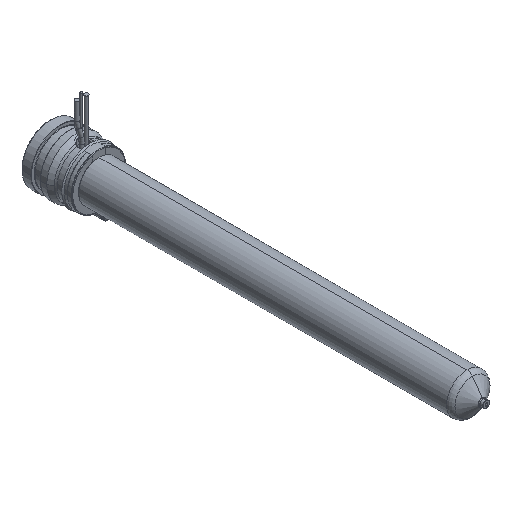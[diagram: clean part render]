
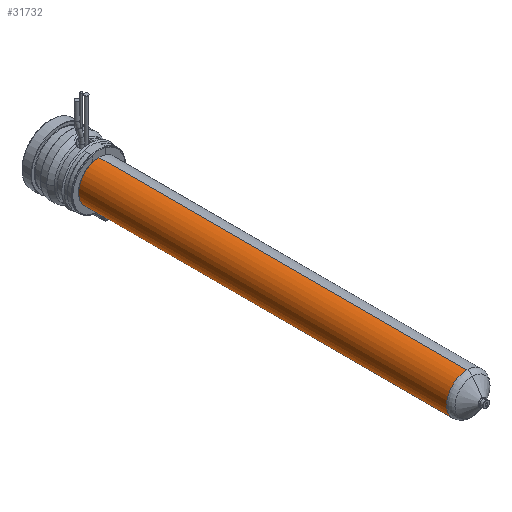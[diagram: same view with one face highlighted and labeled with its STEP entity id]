
A CAD part, isometric view. The second image highlights one B-rep face of the part: STEP entity #31732.
In plain terms, the highlighted cylindrical face has radius 9 mm (diameter 18 mm), a partial arc.
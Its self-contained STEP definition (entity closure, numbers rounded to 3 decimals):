
#31296=CARTESIAN_POINT('',(0.,-185.471,0.));
#31297=DIRECTION('',(0.,-1.,0.));
#31298=DIRECTION('',(0.,0.,1.));
#31299=AXIS2_PLACEMENT_3D('',#31296,#31297,#31298);
#31328=DIRECTION('',(0.,-1.,0.));
#31329=VECTOR('',#31328,163.471);
#31330=CARTESIAN_POINT('',(0.,-22.,9.));
#31331=LINE('',#31330,#31329);
#31343=DIRECTION('',(0.,-1.,0.));
#31344=VECTOR('',#31343,163.471);
#31345=CARTESIAN_POINT('',(0.,-22.,-9.));
#31346=LINE('',#31345,#31344);
#31350=CARTESIAN_POINT('',(0.,-22.,0.));
#31351=DIRECTION('',(0.,-1.,0.));
#31352=DIRECTION('',(0.,0.,1.));
#31353=AXIS2_PLACEMENT_3D('',#31350,#31351,#31352);
#31548=CARTESIAN_POINT('',(0.,-22.,9.));
#31549=CARTESIAN_POINT('',(0.,-185.471,9.));
#31550=VERTEX_POINT('',#31548);
#31551=VERTEX_POINT('',#31549);
#31560=CARTESIAN_POINT('',(0.,-22.,-9.));
#31561=CARTESIAN_POINT('',(0.,-185.471,-9.));
#31562=VERTEX_POINT('',#31560);
#31563=VERTEX_POINT('',#31561);
#31720=CARTESIAN_POINT('',(0.,-9.2,0.));
#31721=DIRECTION('',(0.,-1.,0.));
#31722=DIRECTION('',(0.,0.,1.));
#31723=AXIS2_PLACEMENT_3D('',#31720,#31721,#31722);
#31724=CYLINDRICAL_SURFACE('',#31723,9.);
#31725=ORIENTED_EDGE('',*,*,#31710,.T.);
#31726=ORIENTED_EDGE('',*,*,#31687,.T.);
#31727=ORIENTED_EDGE('',*,*,#31714,.F.);
#31729=ORIENTED_EDGE('',*,*,#31728,.F.);
#31730=EDGE_LOOP('',(#31725,#31726,#31727,#31729));
#31731=FACE_OUTER_BOUND('',#31730,.F.);
#31732=ADVANCED_FACE('',(#31731),#31724,.T.);
#31300=CIRCLE('',#31299,9.);
#31354=CIRCLE('',#31353,9.);
#31687=EDGE_CURVE('',#31551,#31563,#31300,.T.);
#31710=EDGE_CURVE('',#31550,#31551,#31331,.T.);
#31714=EDGE_CURVE('',#31562,#31563,#31346,.T.);
#31728=EDGE_CURVE('',#31550,#31562,#31354,.T.);
